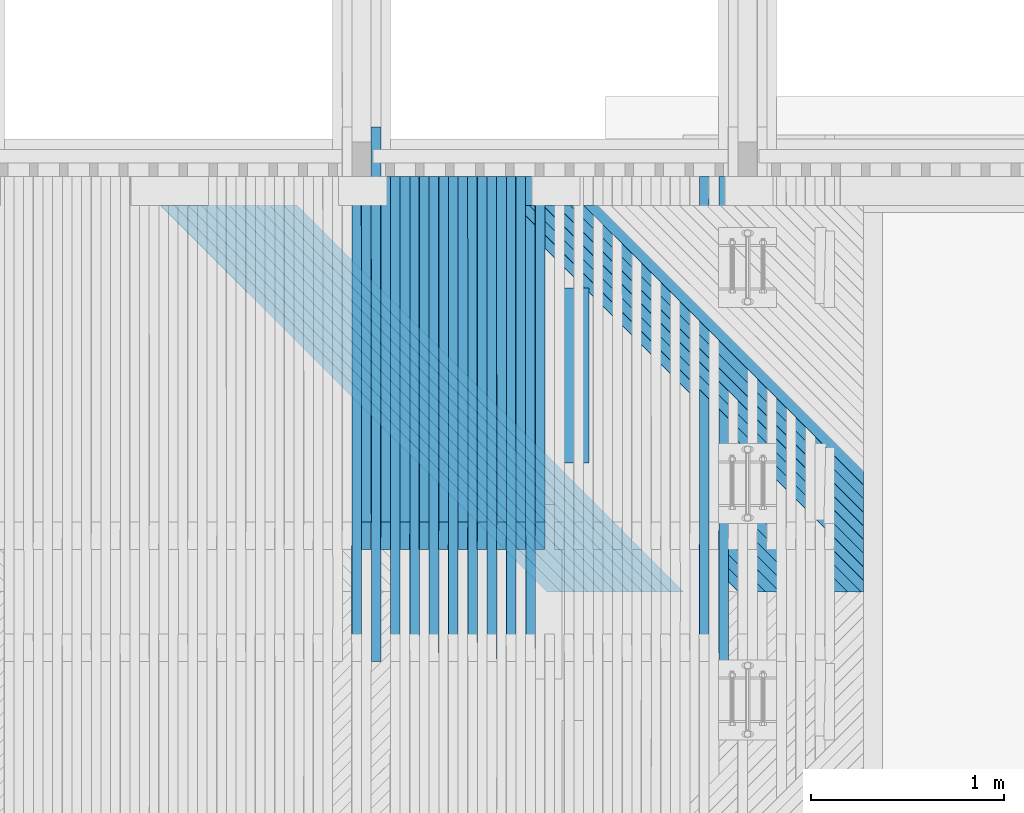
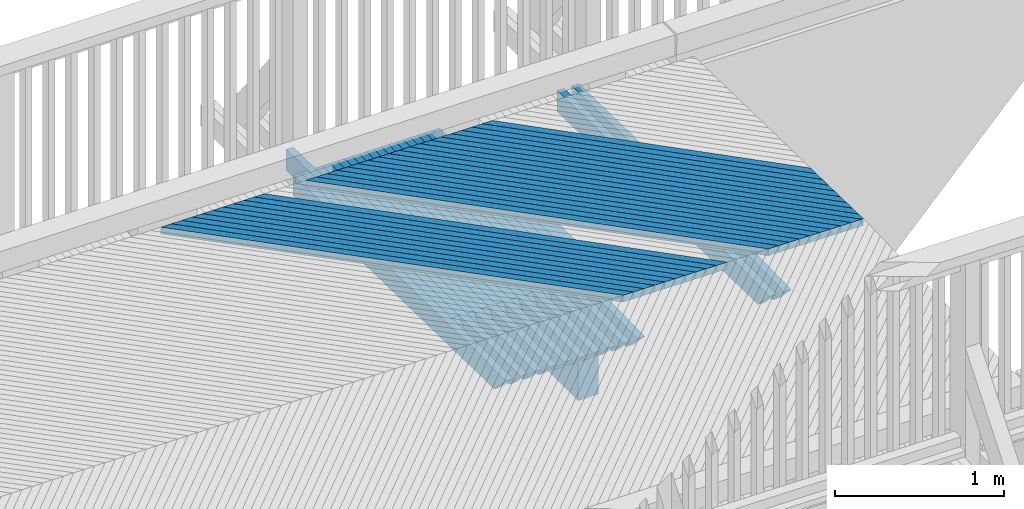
# One storey, part 44 of 53: 51 beams.
"""IFC2X3 building model written with IfcOpenShell, lengths in millimetres."""

from ifc_helpers import new_model, si_unit, frame, origin_with_axes, place, context, subcontext, project, spatial, faceted_brep, material, type_object, element, save


model = new_model("IFC2X3")

# Units and contexts
model_context = context("Model", 3, precision=1e-05, world=origin_with_axes())
body_context = subcontext(model_context, "Body", "Model", "MODEL_VIEW")
ifc_project = project(units=[si_unit("LENGTHUNIT", "METRE", prefix="MILLI"), si_unit("AREAUNIT", "SQUARE_METRE"), si_unit("VOLUMEUNIT", "CUBIC_METRE"), si_unit("MASSUNIT", "GRAM", prefix="KILO"), si_unit("TIMEUNIT", "SECOND"), si_unit("PLANEANGLEUNIT", "RADIAN"), si_unit("SOLIDANGLEUNIT", "STERADIAN"), si_unit("THERMODYNAMICTEMPERATUREUNIT", "DEGREE_CELSIUS"), si_unit("LUMINOUSINTENSITYUNIT", "LUMEN")], contexts=[model_context])

# Site, building, storey
site_placement = place(None, origin_with_axes())
site = spatial("IfcSite", under=ifc_project, at=site_placement, Name="Undefined", CompositionType="ELEMENT")
building_placement = place(site_placement, origin_with_axes())
building = spatial("IfcBuilding", under=site, at=building_placement, Name="Undefined", CompositionType="ELEMENT")
storey_placement = place(building_placement, origin_with_axes())
storey = spatial("IfcBuildingStorey", under=building, at=storey_placement, Name="Undefined", CompositionType="ELEMENT", Elevation=0.0)

# Beams
ifc_material = material(Name="TIMBER/Timber_Undefined")
beam_type_1 = type_object("IfcBeamType", Name="945*140", PredefinedType="NOTDEFINED")
beam_1_placement = place(storey_placement, frame((15109.0, 43937.5, 2500.4679002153), z_axis=(0.0, 0.0, 1.0), x_axis=(0.0, -1.0, 0.0)))
element("IfcBeam", 1, at=beam_1_placement, inside=storey, type_object=beam_type_1, material=ifc_material, Name="PALKKI", ObjectType="945*140", context=body_context, shape_type="Brep", body=[
    faceted_brep([(0.0, 70.0, -472.5), (0.0, 70.0, 472.5), (905.0, 70.0, 472.5), (905.0, 70.0, -472.5), (0.0, -70.0, 472.5), (905.0, -70.0, 472.5), (0.0, -70.0, -472.5), (905.0, -70.0, -472.5)], [[[0, 1, 2, 3]], [[1, 4, 5, 2]], [[4, 6, 7, 5]], [[6, 0, 3, 7]], [[5, 7, 3, 2]], [[6, 4, 1, 0]]]),
])
beam_type_2 = type_object("IfcBeamType", Name="50*50", PredefinedType="NOTDEFINED")
beam_2_placement = place(storey_placement, frame((17188.1518059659, 42365.4998996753, 3166.01273338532), z_axis=(0.706835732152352, 0.706981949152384, -0.0236594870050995), x_axis=(-0.707249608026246, 0.706948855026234, -0.00461609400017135)))
element("IfcBeam", 2, at=beam_2_placement, inside=storey, type_object=beam_type_2, material=ifc_material, Name="BEAM", ObjectType="50*50", context=body_context, shape_type="Brep", body=[
    faceted_brep([(2804.3406783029, -25.0, 24.9999999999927), (2854.34301907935, -25.0, -25.0), (2852.92877373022, 25.0, -25.0000000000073), (2802.92643296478, 25.0, 25.0), (857.065534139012, 24.9999999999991, 25.0000000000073), (856.113780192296, -25.0, 25.0), (806.143039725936, -24.9999999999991, -25.0), (807.094793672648, 24.9999999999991, -25.0)], [[[0, 1, 2, 3]], [[0, 3, 4, 5]], [[1, 0, 5, 6]], [[2, 1, 6, 7]], [[3, 2, 7, 4]], [[6, 5, 4, 7]]]),
])
beam_3_placement = place(storey_placement, frame((17117.4357443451, 42365.4998996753, 3167.08782657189), z_axis=(0.706838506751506, 0.706981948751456, -0.0235764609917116), x_axis=(-0.707249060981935, 0.706948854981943, -0.00469916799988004)))
element("IfcBeam", 3, at=beam_3_placement, inside=storey, type_object=beam_type_2, material=ifc_material, Name="BEAM", ObjectType="50*50", context=body_context, shape_type="Brep", body=[
    faceted_brep([(2804.3406783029, -25.0, 24.9999999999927), (2854.34301907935, -25.0, -25.0), (2852.92877373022, 25.0, -25.0000000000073), (2802.92643296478, 25.0, 25.0), (757.074649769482, 25.0000000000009, 25.0), (756.131196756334, -25.0, 25.0), (706.160221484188, -24.9999999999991, -25.0000000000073), (707.103674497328, 25.0, -25.0000000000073)], [[[0, 1, 2, 3]], [[0, 3, 4, 5]], [[1, 0, 5, 6]], [[2, 1, 6, 7]], [[3, 2, 7, 4]], [[6, 5, 4, 7]]]),
])
beam_4_placement = place(storey_placement, frame((17046.7195569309, 42365.4998996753, 3168.15461339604), z_axis=(0.706841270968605, 0.706981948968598, -0.0234934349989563), x_axis=(-0.707248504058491, 0.706948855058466, -0.00478224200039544)))
element("IfcBeam", 4, at=beam_4_placement, inside=storey, type_object=beam_type_2, material=ifc_material, Name="BEAM", ObjectType="50*50", context=body_context, shape_type="Brep", body=[
    faceted_brep([(2804.3406783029, -25.0, 24.9999999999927), (2854.34301907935, -25.0, -25.0), (2852.92877373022, 25.0, -25.0000000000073), (2802.92643296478, 25.0, 25.0), (657.083441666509, 25.0000000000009, 25.0), (656.148289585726, -24.9999999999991, 25.0000000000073), (606.177079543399, -24.9999999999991, -24.9999999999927), (607.112231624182, 25.0000000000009, -25.0)], [[[0, 1, 2, 3]], [[0, 3, 4, 5]], [[1, 0, 5, 6]], [[2, 1, 6, 7]], [[3, 2, 7, 4]], [[6, 5, 4, 7]]]),
])
beam_5_placement = place(storey_placement, frame((16976.0032446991, 42365.4998996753, 3169.21309384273), z_axis=(0.70684402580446, 0.706981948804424, -0.0234104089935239), x_axis=(-0.707247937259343, 0.706948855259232, -0.00486531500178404)))
element("IfcBeam", 5, at=beam_5_placement, inside=storey, type_object=beam_type_2, material=ifc_material, Name="BEAM", ObjectType="50*50", context=body_context, shape_type="Brep", body=[
    faceted_brep([(2804.3406783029, -25.0, 24.9999999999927), (2854.34301907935, -25.0, -25.0), (2852.92877373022, 25.0, -25.0000000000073), (2802.92643296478, 25.0, 25.0), (557.091907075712, 25.0000000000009, 25.0), (556.165055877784, -24.9999999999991, 25.0), (506.193611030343, -24.9999999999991, -25.0), (507.120462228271, 25.0000000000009, -24.9999999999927)], [[[0, 1, 2, 3]], [[0, 3, 4, 5]], [[1, 0, 5, 6]], [[2, 1, 6, 7]], [[3, 2, 7, 4]], [[6, 5, 4, 7]]]),
])
beam_6_placement = place(storey_placement, frame((16905.2868086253, 42365.4998996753, 3170.26326789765), z_axis=(0.706846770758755, 0.70698194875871, -0.0233273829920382), x_axis=(-0.707247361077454, 0.706948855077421, -0.00494838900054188)))
element("IfcBeam", 6, at=beam_6_placement, inside=storey, type_object=beam_type_2, material=ifc_material, Name="BEAM", ObjectType="50*50", context=body_context, shape_type="Brep", body=[
    faceted_brep([(2804.3406783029, -25.0, 24.9999999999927), (2854.34301907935, -25.0, -25.0), (2852.92877373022, 25.0, -25.0000000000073), (2802.92643296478, 25.0, 25.0), (457.100042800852, 25.0000000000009, 25.0000000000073), (456.181492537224, -25.0, 25.0000000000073), (406.209812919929, -24.9999999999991, -24.9999999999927), (407.128363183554, 25.0000000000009, -25.0)], [[[0, 1, 2, 3]], [[0, 3, 4, 5]], [[1, 0, 5, 6]], [[2, 1, 6, 7]], [[3, 2, 7, 4]], [[6, 5, 4, 7]]]),
])
beam_7_placement = place(storey_placement, frame((16834.5702496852, 42365.4998996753, 3171.30513554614), z_axis=(0.706849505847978, 0.706981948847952, -0.023244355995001), x_axis=(-0.707246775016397, 0.70694885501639, -0.0050314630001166)))
element("IfcBeam", 7, at=beam_7_placement, inside=storey, type_object=beam_type_2, material=ifc_material, Name="BEAM", ObjectType="50*50", context=body_context, shape_type="Brep", body=[
    faceted_brep([(2804.3406783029, -25.0, 24.9999999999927), (2854.34301907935, -25.0, -25.0), (2852.92877373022, 25.0, -25.0000000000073), (2802.92643296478, 25.0, 25.0), (357.107846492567, 24.9999999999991, 24.9999999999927), (356.19759721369, -25.0000000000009, 24.9999999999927), (306.225682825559, -25.0000000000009, -25.0000000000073), (307.135932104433, 24.9999999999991, -25.0000000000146)], [[[0, 1, 2, 3]], [[0, 3, 4, 5]], [[1, 0, 5, 6]], [[2, 1, 6, 7]], [[3, 2, 7, 4]], [[6, 5, 4, 7]]]),
])
beam_8_placement = place(storey_placement, frame((16763.8535688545, 42365.4998996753, 3172.33869677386), z_axis=(0.706852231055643, 0.706981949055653, -0.0231613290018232), x_axis=(-0.707246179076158, 0.706948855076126, -0.0051145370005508)))
element("IfcBeam", 8, at=beam_8_placement, inside=storey, type_object=beam_type_2, material=ifc_material, Name="BEAM", ObjectType="50*50", context=body_context, shape_type="Brep", body=[
    faceted_brep([(2804.3406783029, -25.0, 24.9999999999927), (2854.34301907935, -25.0, -25.0), (2852.92877373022, 25.0, -25.0000000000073), (2802.92643296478, 25.0, 25.0), (257.115315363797, 25.0, 25.0000000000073), (256.21336707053, -25.0000000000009, 25.0000000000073), (206.241217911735, -25.0, -24.9999999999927), (207.143166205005, 25.0, -24.9999999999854)], [[[0, 1, 2, 3]], [[0, 3, 4, 5]], [[1, 0, 5, 6]], [[2, 1, 6, 7]], [[3, 2, 7, 4]], [[6, 5, 4, 7]]]),
])
beam_9_placement = place(storey_placement, frame((16693.1367671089, 42365.4998996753, 3173.36395156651), z_axis=(0.706854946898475, 0.706981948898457, -0.0230783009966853), x_axis=(-0.707245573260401, 0.70694885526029, -0.00519761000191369)))
element("IfcBeam", 9, at=beam_9_placement, inside=storey, type_object=beam_type_2, material=ifc_material, Name="BEAM", ObjectType="50*50", context=body_context, shape_type="Brep", body=[
    faceted_brep([(2804.3406783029, -25.0, 24.9999999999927), (2854.34301907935, -25.0, -25.0), (2852.92877373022, 25.0, -25.0000000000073), (2802.92643296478, 25.0, 25.0), (157.122446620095, 25.0, 25.0), (156.228799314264, -25.0, 25.0000000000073), (106.256415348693, -25.0, -24.9999999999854), (107.150062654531, 25.0, -24.9999999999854)], [[[0, 1, 2, 3]], [[0, 3, 4, 5]], [[1, 0, 5, 6]], [[2, 1, 6, 7]], [[3, 2, 7, 4]], [[6, 5, 4, 7]]]),
])
beam_10_placement = place(storey_placement, frame((16622.419845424, 42365.4998996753, 3174.38089991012), z_axis=(0.70685765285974, 0.706981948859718, -0.0229952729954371), x_axis=(-0.707244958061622, 0.706948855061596, -0.00528068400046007)))
element("IfcBeam", 10, at=beam_10_placement, inside=storey, type_object=beam_type_2, material=ifc_material, Name="BEAM", ObjectType="50*50", context=body_context, shape_type="Brep", body=[
    faceted_brep([(25.0011701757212, -24.9999999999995, -24.9999999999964), (23.5869248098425, 25.0000000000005, -24.9999999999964), (2852.92877373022, 25.0, -25.0000000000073), (2854.34301907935, -25.0, -25.0), (2804.3406783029, -25.0, 24.9999999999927), (2802.92643296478, 25.0, 25.0), (57.1292373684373, 25.0, 25.0), (56.2438911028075, -25.0, 25.0), (15.6334371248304, -25.0, -15.6327054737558), (15.3693294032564, 25.0, -16.7827892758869)], [[[0, 1, 2, 3]], [[4, 3, 2, 5]], [[4, 5, 6, 7]], [[0, 3, 4, 7, 8]], [[1, 0, 8, 9]], [[5, 2, 1, 9, 6]], [[8, 7, 6, 9]]]),
])
for number, where, z_axis, x_axis, name in (
    (11, (16551.7028047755, 42365.4998996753, 3175.38954179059), (0.706860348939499, 0.70698194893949, -0.0229122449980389), (-0.707244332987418, 0.706948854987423, -0.00536375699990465), "BEAM"),
    (12, (16480.9856461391, 42365.4998996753, 3176.38987719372), (0.706863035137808, 0.706981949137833, -0.0228292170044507), (-0.707243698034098, 0.706948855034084, -0.00544683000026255), "BEAM"),
    (13, (16410.2683704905, 42365.4998996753, 3177.38190610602), (0.706865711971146, 0.706981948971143, -0.0227461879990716), (-0.707243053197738, 0.706948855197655, -0.00552990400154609), "BEAM"),
    (14, (16339.5509788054, 42365.4998996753, 3178.36562851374), (0.706868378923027, 0.706981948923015, -0.0226631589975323), (-0.707242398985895, 0.7069488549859, -0.00561297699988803), "BEAM"),
    (15, (16268.8334720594, 42365.4998996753, 3179.34104440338), (0.706871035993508, 0.706981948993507, -0.0225801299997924), (-0.707241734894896, 0.706948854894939, -0.00569604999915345), "BEAM"),
    (16, (16198.1158512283, 42365.4998996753, 3180.30815376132), (0.706873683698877, 0.706981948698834, -0.0224970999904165), (-0.707241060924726, 0.706948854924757, -0.00577912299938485), "BEAM"),
    (17, (16127.3981172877, 42365.4998996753, 3181.26695657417), (0.706876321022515, 0.706981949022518, -0.0224140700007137), (-0.707240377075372, 0.706948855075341, -0.00586219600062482), "BEAM"),
    (18, (16056.6802712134, 42365.4998996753, 3182.21745282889), (0.706878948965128, 0.706981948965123, -0.0223310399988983), (-0.707239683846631, 0.706948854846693, -0.00594526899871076), "BEAM"),
    (19, (15985.962313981, 42365.4998996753, 3183.15964251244), (0.706881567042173, 0.706981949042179, -0.0222480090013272), (-0.707238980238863, 0.706948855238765, -0.00602834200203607), "BEAM"),
    (20, (15632.3708945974, 42365.4998996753, 3187.74599190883), (0.706894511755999, 0.706981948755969, -0.021832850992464), (-0.707235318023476, 0.706948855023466, -0.00644370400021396), "BEAM"),
    (21, (15561.6522909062, 42365.4998996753, 3188.6383418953), (0.706897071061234, 0.706981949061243, -0.0217498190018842), (-0.707234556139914, 0.706948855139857, -0.00652677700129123), "BEAM"),
    (22, (15490.9335828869, 42365.4998996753, 3189.52238522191), (0.706899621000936, 0.706981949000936, -0.0216667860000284), (-0.707233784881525, 0.706948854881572, -0.00660984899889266), "BEAM"),
    (23, (15420.2147715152, 42365.4998996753, 3190.39812187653), (0.706902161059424, 0.706981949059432, -0.0215837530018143), (-0.707233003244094, 0.706948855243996, -0.00669292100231), "BEAM"),
    (24, (15349.4958577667, 42365.4998996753, 3191.26555184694), (0.706904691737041, 0.706981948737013, -0.021500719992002), (-0.707232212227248, 0.706948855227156, -0.00677599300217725), "BEAM"),
    (25, (15278.7768426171, 42365.4998996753, 3192.12467512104), (0.706907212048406, 0.706981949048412, -0.0214176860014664), (-0.707231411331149, 0.706948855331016, -0.00685906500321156), "BEAM"),
    (26, (15208.0577270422, 42365.4998996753, 3192.97549168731), (0.706909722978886, 0.706981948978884, -0.0213346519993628), (-0.707230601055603, 0.70694885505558, -0.00694213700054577), "BEAM"),
    (27, (15137.3385120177, 42365.4998996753, 3193.81800153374), (0.706912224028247, 0.706981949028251, -0.021251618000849), (-0.70722978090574, 0.706948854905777, -0.00702520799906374), "BEAM"),
    (28, (15066.6191985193, 42365.4998996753, 3194.65220464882), (0.706914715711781, 0.706981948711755, -0.0211685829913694), (-0.707228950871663, 0.706948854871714, -0.00710827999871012), "BEAM"),
    (29, (14995.8997875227, 42365.4998996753, 3195.47810102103), (0.706917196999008, 0.706981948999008, -0.0210855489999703), (-0.707228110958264, 0.70694885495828, -0.00719135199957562), "BEAM"),
):
    element("IfcBeam", number, at=place(storey_placement, frame(where, z_axis=z_axis, x_axis=x_axis)), inside=storey, type_object=beam_type_2, material=ifc_material, Name=name, ObjectType="50*50", context=body_context, shape_type="Brep", body=[
        faceted_brep([(23.5869248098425, 25.0000000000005, -24.9999999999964), (-26.415415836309, 25.0000000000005, 25.0000000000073), (2802.92643296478, 25.0, 25.0), (2852.92877373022, 25.0, -25.0000000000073), (-25.001170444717, -24.9999999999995, 25.0000000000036), (2804.3406783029, -25.0, 24.9999999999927), (25.0011701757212, -24.9999999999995, -24.9999999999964), (2854.34301907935, -25.0, -25.0)], [[[0, 1, 2, 3]], [[1, 4, 5, 2]], [[4, 6, 7, 5]], [[6, 0, 3, 7]], [[5, 7, 3, 2]], [[6, 4, 1, 0]]]),
    ])
beam_type_3 = type_object("IfcBeamType", Name="150*50", PredefinedType="NOTDEFINED")
for number, where, z_axis, x_axis, name in (
    (30, (15874.7290061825, 44513.4953923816, 3041.62863633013), (0.0130016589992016, 0.0199960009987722, 0.999715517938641), (0.000260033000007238, -0.999800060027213, 0.0199943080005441), "BEAM"),
    (31, (15774.717424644, 44513.4953923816, 3042.92875591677), (0.0128355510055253, 0.019996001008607, 0.999717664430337), (0.000256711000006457, -0.999800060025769, 0.0199943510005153), "BEAM"),
    (32, (14874.6038632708, 44513.4953923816, 3053.88204159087), (0.0113405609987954, 0.0199960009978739, 0.999735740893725), (0.000226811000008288, -0.999800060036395, 0.0199947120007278), "BEAM"),
):
    element("IfcBeam", number, at=place(storey_placement, frame(where, z_axis=z_axis, x_axis=x_axis)), inside=storey, type_object=beam_type_3, material=ifc_material, Name=name, ObjectType="150*50", context=body_context, shape_type="Brep", body=[
        faceted_brep([(1.28420651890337e-08, -24.9999999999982, -74.9999999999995), (1.28420651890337e-08, 25.0000000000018, -75.0), (2375.00494422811, 25.0000000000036, -75.0), (2375.0049444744, -24.9999999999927, -74.9999999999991), (-1.28347892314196e-08, -24.9999999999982, 75.0), (-1.28347892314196e-08, 25.0, 75.0), (2150.42515052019, 25.0000000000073, 75.0), (2510.59248715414, 25.0000000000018, 60.5875433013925), (2510.5924871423, -24.9999999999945, 60.5875430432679), (2150.42514405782, -24.9999999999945, 75.0)], [[[0, 1, 2, 3]], [[0, 4, 5, 1]], [[2, 1, 5, 6, 7]], [[3, 2, 7, 8]], [[4, 0, 3, 8, 9]], [[5, 4, 9, 6]], [[8, 7, 6, 9]]]),
    ])
beam_11_placement = place(storey_placement, frame((14924.6205833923, 44513.4953923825, 3053.30636416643), z_axis=(0.0115066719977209, 0.0199960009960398, 0.999733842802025), x_axis=(0.00023013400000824, -0.999800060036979, 0.0199946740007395)))
element("IfcBeam", 33, at=beam_11_placement, inside=storey, type_object=beam_type_3, material=ifc_material, Name="BEAM", ObjectType="150*50", context=body_context, shape_type="Brep", body=[
    faceted_brep([(1.28420651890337e-08, -24.9999999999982, -74.9999999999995), (-1.28347892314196e-08, -24.9999999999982, 75.0), (-1.28347892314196e-08, 25.0, 75.0), (1.28420651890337e-08, 25.0000000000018, -75.0), (1789.96936408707, 24.9999999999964, 75.0000000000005), (1928.42646328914, 24.9999999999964, -74.9999999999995), (1928.42646353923, -25.0000000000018, -75.0), (1789.96936433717, -25.0000000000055, 74.9999999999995)], [[[0, 1, 2, 3]], [[3, 2, 4, 5]], [[0, 3, 5, 6]], [[1, 0, 6, 7]], [[2, 1, 7, 4]], [[5, 4, 7, 6]]]),
])
beam_12_placement = place(storey_placement, frame((14774.590259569, 44513.4953923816, 3055.01598487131), z_axis=(0.0111744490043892, 0.0199960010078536, 0.99973761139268), x_axis=(0.000223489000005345, -0.999800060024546, 0.0199947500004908)))
element("IfcBeam", 34, at=beam_12_placement, inside=storey, type_object=beam_type_3, material=ifc_material, Name="BEAM", ObjectType="150*50", context=body_context, shape_type="Brep", body=[
    faceted_brep([(1.28420651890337e-08, -24.9999999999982, -74.9999999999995), (1.28420651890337e-08, 25.0000000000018, -75.0), (2375.00494422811, 25.0000000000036, -75.0), (2375.0049444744, -24.9999999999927, -74.9999999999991), (-1.28347892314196e-08, -24.9999999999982, 75.0), (-1.28347892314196e-08, 25.0, 75.0), (2150.42515052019, 25.0000000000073, 75.0), (2510.59248715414, 25.0000000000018, 60.5875433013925), (2510.5924871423, -24.9999999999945, 60.5875430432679), (2150.42514405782, -24.9999999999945, 75.0)], [[[0, 1, 2, 3]], [[0, 4, 5, 1]], [[2, 1, 5, 6, 7]], [[3, 2, 7, 8]], [[4, 0, 3, 8, 9]], [[5, 4, 9, 6]], [[8, 7, 6, 9]]]),
])
beam_13_placement = place(storey_placement, frame((14824.6070746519, 44513.4953923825, 3054.44861800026), z_axis=(0.0113405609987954, 0.0199960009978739, 0.999735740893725), x_axis=(0.000226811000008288, -0.999800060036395, 0.0199947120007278)))
element("IfcBeam", 35, at=beam_13_placement, inside=storey, type_object=beam_type_3, material=ifc_material, Name="BEAM", ObjectType="150*50", context=body_context, shape_type="Brep", body=[
    faceted_brep([(1.28420651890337e-08, -24.9999999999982, -74.9999999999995), (-1.28347892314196e-08, -24.9999999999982, 75.0), (-1.28347892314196e-08, 25.0, 75.0), (1.28420651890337e-08, 25.0000000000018, -75.0), (1789.96936408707, 24.9999999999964, 75.0000000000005), (1928.42646328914, 24.9999999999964, -74.9999999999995), (1928.42646353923, -25.0000000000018, -75.0), (1789.96936433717, -25.0000000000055, 74.9999999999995)], [[[0, 1, 2, 3]], [[3, 2, 4, 5]], [[0, 3, 5, 6]], [[1, 0, 6, 7]], [[2, 1, 7, 4]], [[5, 4, 7, 6]]]),
])
beam_14_placement = place(storey_placement, frame((14674.576468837, 44513.4953923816, 3056.13331034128), z_axis=(0.0110083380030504, 0.0199960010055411, 0.999739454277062), x_axis=(0.000220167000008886, -0.999800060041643, 0.0199947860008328)))
element("IfcBeam", 36, at=beam_14_placement, inside=storey, type_object=beam_type_3, material=ifc_material, Name="BEAM", ObjectType="150*50", context=body_context, shape_type="Brep", body=[
    faceted_brep([(1.28420651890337e-08, -24.9999999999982, -74.9999999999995), (1.28420651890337e-08, 25.0000000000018, -75.0), (2375.00494422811, 25.0000000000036, -75.0), (2375.0049444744, -24.9999999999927, -74.9999999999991), (-1.28347892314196e-08, -24.9999999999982, 75.0), (-1.28347892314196e-08, 25.0, 75.0), (2150.42515052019, 25.0000000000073, 75.0), (2510.59248715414, 25.0000000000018, 60.5875433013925), (2510.5924871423, -24.9999999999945, 60.5875430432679), (2150.42514405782, -24.9999999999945, 75.0)], [[[0, 1, 2, 3]], [[0, 4, 5, 1]], [[2, 1, 5, 6, 7]], [[3, 2, 7, 8]], [[4, 0, 3, 8, 9]], [[5, 4, 9, 6]], [[8, 7, 6, 9]]]),
])
beam_15_placement = place(storey_placement, frame((14724.5933775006, 44513.4953923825, 3055.57425403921), z_axis=(0.0111744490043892, 0.0199960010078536, 0.99973761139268), x_axis=(0.000223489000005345, -0.999800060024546, 0.0199947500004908)))
element("IfcBeam", 37, at=beam_15_placement, inside=storey, type_object=beam_type_3, material=ifc_material, Name="BEAM", ObjectType="150*50", context=body_context, shape_type="Brep", body=[
    faceted_brep([(1.28420651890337e-08, -24.9999999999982, -74.9999999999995), (-1.28347892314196e-08, -24.9999999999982, 75.0), (-1.28347892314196e-08, 25.0, 75.0), (1.28420651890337e-08, 25.0000000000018, -75.0), (1789.96936408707, 24.9999999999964, 75.0000000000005), (1928.42646328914, 24.9999999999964, -74.9999999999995), (1928.42646353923, -25.0000000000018, -75.0), (1789.96936433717, -25.0000000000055, 74.9999999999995)], [[[0, 1, 2, 3]], [[3, 2, 4, 5]], [[0, 3, 5, 6]], [[1, 0, 6, 7]], [[2, 1, 7, 4]], [[5, 4, 7, 6]]]),
])
beam_16_placement = place(storey_placement, frame((14574.562493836, 44513.4953923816, 3057.23401797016), z_axis=(0.0108422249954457, 0.0199960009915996, 0.999741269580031), x_axis=(0.000216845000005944, -0.999800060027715, 0.0199948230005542)))
element("IfcBeam", 38, at=beam_16_placement, inside=storey, type_object=beam_type_3, material=ifc_material, Name="BEAM", ObjectType="150*50", context=body_context, shape_type="Brep", body=[
    faceted_brep([(1.28420651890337e-08, -24.9999999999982, -74.9999999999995), (1.28420651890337e-08, 25.0000000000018, -75.0), (2375.00494422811, 25.0000000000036, -75.0), (2375.0049444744, -24.9999999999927, -74.9999999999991), (-1.28347892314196e-08, -24.9999999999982, 75.0), (-1.28347892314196e-08, 25.0, 75.0), (2150.42515052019, 25.0000000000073, 75.0), (2510.59248715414, 25.0000000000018, 60.5875433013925), (2510.5924871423, -24.9999999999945, 60.5875430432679), (2150.42514405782, -24.9999999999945, 75.0)], [[[0, 1, 2, 3]], [[0, 4, 5, 1]], [[2, 1, 5, 6, 7]], [[3, 2, 7, 8]], [[4, 0, 3, 8, 9]], [[5, 4, 9, 6]], [[8, 7, 6, 9]]]),
])
beam_17_placement = place(storey_placement, frame((14624.5794946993, 44513.4953923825, 3056.68327225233), z_axis=(0.0110083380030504, 0.0199960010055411, 0.999739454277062), x_axis=(0.000220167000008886, -0.999800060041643, 0.0199947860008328)))
element("IfcBeam", 39, at=beam_17_placement, inside=storey, type_object=beam_type_3, material=ifc_material, Name="BEAM", ObjectType="150*50", context=body_context, shape_type="Brep", body=[
    faceted_brep([(1.28420651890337e-08, -24.9999999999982, -74.9999999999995), (-1.28347892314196e-08, -24.9999999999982, 75.0), (-1.28347892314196e-08, 25.0, 75.0), (1.28420651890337e-08, 25.0000000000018, -75.0), (1789.96936408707, 24.9999999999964, 75.0000000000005), (1928.42646328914, 24.9999999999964, -74.9999999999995), (1928.42646353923, -25.0000000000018, -75.0), (1789.96936433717, -25.0000000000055, 74.9999999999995)], [[[0, 1, 2, 3]], [[3, 2, 4, 5]], [[0, 3, 5, 6]], [[1, 0, 6, 7]], [[2, 1, 7, 4]], [[5, 4, 7, 6]]]),
])
beam_18_placement = place(storey_placement, frame((14474.5483373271, 44513.4953923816, 3058.31810772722), z_axis=(0.0106761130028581, 0.0199960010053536, 0.999743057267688), x_axis=(0.000213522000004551, -0.999800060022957, 0.0199948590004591)))
element("IfcBeam", 40, at=beam_18_placement, inside=storey, type_object=beam_type_3, material=ifc_material, Name="BEAM", ObjectType="150*50", context=body_context, shape_type="Brep", body=[
    faceted_brep([(1.28420651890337e-08, -24.9999999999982, -74.9999999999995), (1.28420651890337e-08, 25.0000000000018, -75.0), (2375.00494422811, 25.0000000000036, -75.0), (2375.0049444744, -24.9999999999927, -74.9999999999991), (-1.28347892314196e-08, -24.9999999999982, 75.0), (-1.28347892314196e-08, 25.0, 75.0), (2150.42515052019, 25.0000000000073, 75.0), (2510.59248715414, 25.0000000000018, 60.5875433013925), (2510.5924871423, -24.9999999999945, 60.5875430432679), (2150.42514405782, -24.9999999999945, 75.0)], [[[0, 1, 2, 3]], [[0, 4, 5, 1]], [[2, 1, 5, 6, 7]], [[3, 2, 7, 8]], [[4, 0, 3, 8, 9]], [[5, 4, 9, 6]], [[8, 7, 6, 9]]]),
])
beam_19_placement = place(storey_placement, frame((14524.5654290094, 44513.4953923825, 3057.77567260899), z_axis=(0.0108422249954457, 0.0199960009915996, 0.999741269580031), x_axis=(0.000216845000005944, -0.999800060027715, 0.0199948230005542)))
element("IfcBeam", 41, at=beam_19_placement, inside=storey, type_object=beam_type_3, material=ifc_material, Name="BEAM", ObjectType="150*50", context=body_context, shape_type="Brep", body=[
    faceted_brep([(1.28420651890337e-08, -24.9999999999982, -74.9999999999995), (-1.28347892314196e-08, -24.9999999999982, 75.0), (-1.28347892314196e-08, 25.0, 75.0), (1.28420651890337e-08, 25.0000000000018, -75.0), (1789.96936408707, 24.9999999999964, 75.0000000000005), (1928.42646328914, 24.9999999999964, -74.9999999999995), (1928.42646353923, -25.0000000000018, -75.0), (1789.96936433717, -25.0000000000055, 74.9999999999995)], [[[0, 1, 2, 3]], [[3, 2, 4, 5]], [[0, 3, 5, 6]], [[1, 0, 6, 7]], [[2, 1, 7, 4]], [[5, 4, 7, 6]]]),
])
beam_20_placement = place(storey_placement, frame((14374.5340020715, 44513.4953923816, 3059.38557958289), z_axis=(0.0105100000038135, 0.0199960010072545, 0.99974481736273), x_axis=(0.000210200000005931, -0.999800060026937, 0.0199948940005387)))
element("IfcBeam", 42, at=beam_20_placement, inside=storey, type_object=beam_type_3, material=ifc_material, Name="BEAM", ObjectType="150*50", context=body_context, shape_type="Brep", body=[
    faceted_brep([(1.28420651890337e-08, -24.9999999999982, -74.9999999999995), (1.28420651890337e-08, 25.0000000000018, -75.0), (2375.00494422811, 25.0000000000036, -75.0), (2375.0049444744, -24.9999999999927, -74.9999999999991), (-1.28347892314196e-08, -24.9999999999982, 75.0), (-1.28347892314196e-08, 25.0, 75.0), (2150.42515052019, 25.0000000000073, 75.0), (2510.59248715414, 25.0000000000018, 60.5875433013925), (2510.5924871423, -24.9999999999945, 60.5875430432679), (2150.42514405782, -24.9999999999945, 75.0)], [[[0, 1, 2, 3]], [[0, 4, 5, 1]], [[2, 1, 5, 6, 7]], [[3, 2, 7, 8]], [[4, 0, 3, 8, 9]], [[5, 4, 9, 6]], [[8, 7, 6, 9]]]),
])
beam_21_placement = place(storey_placement, frame((14424.5511831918, 44513.4953923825, 3058.85145507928), z_axis=(0.0106761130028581, 0.0199960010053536, 0.999743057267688), x_axis=(0.000213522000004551, -0.999800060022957, 0.0199948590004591)))
element("IfcBeam", 43, at=beam_21_placement, inside=storey, type_object=beam_type_3, material=ifc_material, Name="BEAM", ObjectType="150*50", context=body_context, shape_type="Brep", body=[
    faceted_brep([(1.28420651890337e-08, -24.9999999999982, -74.9999999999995), (-1.28347892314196e-08, -24.9999999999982, 75.0), (-1.28347892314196e-08, 25.0, 75.0), (1.28420651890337e-08, 25.0000000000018, -75.0), (1789.96936408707, 24.9999999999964, 75.0000000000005), (1928.42646328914, 24.9999999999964, -74.9999999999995), (1928.42646353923, -25.0000000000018, -75.0), (1789.96936433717, -25.0000000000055, 74.9999999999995)], [[[0, 1, 2, 3]], [[3, 2, 4, 5]], [[0, 3, 5, 6]], [[1, 0, 6, 7]], [[2, 1, 7, 4]], [[5, 4, 7, 6]]]),
])
beam_22_placement = place(storey_placement, frame((14274.5194908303, 44513.4953923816, 3060.43643350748), z_axis=(0.010343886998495, 0.0199960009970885, 0.999746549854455), x_axis=(0.000206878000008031, -0.999800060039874, 0.0199949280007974)))
element("IfcBeam", 44, at=beam_22_placement, inside=storey, type_object=beam_type_3, material=ifc_material, Name="BEAM", ObjectType="150*50", context=body_context, shape_type="Brep", body=[
    faceted_brep([(1.28420651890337e-08, -24.9999999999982, -74.9999999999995), (1.28420651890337e-08, 25.0000000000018, -75.0), (2375.00494422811, 25.0000000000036, -75.0), (2375.0049444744, -24.9999999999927, -74.9999999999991), (-1.28347892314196e-08, -24.9999999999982, 75.0), (-1.28347892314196e-08, 25.0, 75.0), (2150.42515052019, 25.0000000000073, 75.0), (2510.59248715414, 25.0000000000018, 60.5875433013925), (2510.5924871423, -24.9999999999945, 60.5875430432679), (2150.42514405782, -24.9999999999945, 75.0)], [[[0, 1, 2, 3]], [[0, 4, 5, 1]], [[2, 1, 5, 6, 7]], [[3, 2, 7, 8]], [[4, 0, 3, 8, 9]], [[5, 4, 9, 6]], [[8, 7, 6, 9]]]),
])
beam_23_placement = place(storey_placement, frame((14324.5367600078, 44513.4953923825, 3059.91061963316), z_axis=(0.0105100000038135, 0.0199960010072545, 0.99974481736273), x_axis=(0.000210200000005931, -0.999800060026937, 0.0199948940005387)))
element("IfcBeam", 45, at=beam_23_placement, inside=storey, type_object=beam_type_3, material=ifc_material, Name="BEAM", ObjectType="150*50", context=body_context, shape_type="Brep", body=[
    faceted_brep([(1.28420651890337e-08, -24.9999999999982, -74.9999999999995), (-1.28347892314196e-08, -24.9999999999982, 75.0), (-1.28347892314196e-08, 25.0, 75.0), (1.28420651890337e-08, 25.0000000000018, -75.0), (1789.96936408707, 24.9999999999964, 75.0000000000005), (1928.42646328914, 24.9999999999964, -74.9999999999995), (1928.42646353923, -25.0000000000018, -75.0), (1789.96936433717, -25.0000000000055, 74.9999999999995)], [[[0, 1, 2, 3]], [[3, 2, 4, 5]], [[0, 3, 5, 6]], [[1, 0, 6, 7]], [[2, 1, 7, 4]], [[5, 4, 7, 6]]]),
])
beam_24_placement = place(storey_placement, frame((14174.5048063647, 44513.4953923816, 3061.47066947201), z_axis=(0.0101777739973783, 0.0199960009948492, 0.999748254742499), x_axis=(0.00020355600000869, -0.999800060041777, 0.0199949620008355)))
element("IfcBeam", 46, at=beam_24_placement, inside=storey, type_object=beam_type_3, material=ifc_material, Name="BEAM", ObjectType="150*50", context=body_context, shape_type="Brep", body=[
    faceted_brep([(1.28420651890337e-08, -24.9999999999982, -74.9999999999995), (1.28420651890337e-08, 25.0000000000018, -75.0), (2375.00494422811, 25.0000000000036, -75.0), (2375.0049444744, -24.9999999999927, -74.9999999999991), (-1.28347892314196e-08, -24.9999999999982, 75.0), (-1.28347892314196e-08, 25.0, 75.0), (2150.42515052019, 25.0000000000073, 75.0), (2510.59248715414, 25.0000000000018, 60.5875433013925), (2510.5924871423, -24.9999999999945, 60.5875430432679), (2150.42514405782, -24.9999999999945, 75.0)], [[[0, 1, 2, 3]], [[0, 4, 5, 1]], [[2, 1, 5, 6, 7]], [[3, 2, 7, 8]], [[4, 0, 3, 8, 9]], [[5, 4, 9, 6]], [[8, 7, 6, 9]]]),
])
for number, where, z_axis, x_axis, name in (
    (47, (14224.5221622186, 44513.4953923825, 3060.95316624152), (0.010343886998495, 0.0199960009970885, 0.999746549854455), (0.000206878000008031, -0.999800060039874, 0.0199949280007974), "BEAM"),
    (48, (14124.5073925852, 44513.4953923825, 3061.97909487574), (0.0101777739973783, 0.0199960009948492, 0.999748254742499), (0.00020355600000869, -0.999800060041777, 0.0199949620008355), "BEAM"),
):
    element("IfcBeam", number, at=place(storey_placement, frame(where, z_axis=z_axis, x_axis=x_axis)), inside=storey, type_object=beam_type_3, material=ifc_material, Name=name, ObjectType="150*50", context=body_context, shape_type="Brep", body=[
        faceted_brep([(1.28420651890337e-08, -24.9999999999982, -74.9999999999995), (-1.28347892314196e-08, -24.9999999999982, 75.0), (-1.28347892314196e-08, 25.0, 75.0), (1.28420651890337e-08, 25.0000000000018, -75.0), (1789.96936408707, 24.9999999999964, 75.0000000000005), (1928.42646328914, 24.9999999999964, -74.9999999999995), (1928.42646353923, -25.0000000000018, -75.0), (1789.96936433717, -25.0000000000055, 74.9999999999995)], [[[0, 1, 2, 3]], [[3, 2, 4, 5]], [[0, 3, 5, 6]], [[1, 0, 6, 7]], [[2, 1, 7, 4]], [[5, 4, 7, 6]]]),
    ])
beam_25_placement = place(storey_placement, frame((13974.4749288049, 44513.4953923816, 3063.48928740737), z_axis=(0.00984554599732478, 0.0199960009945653, 0.999751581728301), x_axis=(0.000196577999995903, -0.999800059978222, 0.0199950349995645)))
element("IfcBeam", 49, at=beam_25_placement, inside=storey, type_object=beam_type_3, material=ifc_material, Name="BEAM", ObjectType="150*50", context=body_context, shape_type="Brep", body=[
    faceted_brep([(1.28420651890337e-08, -24.9999999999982, -74.9999999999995), (1.28420651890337e-08, 25.0000000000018, -75.0), (2375.00494422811, 25.0000000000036, -75.0), (2375.0049444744, -24.9999999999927, -74.9999999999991), (-1.28347892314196e-08, -24.9999999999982, 75.0), (-1.28347892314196e-08, 25.0, 75.0), (2150.42515052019, 25.0000000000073, 75.0), (2510.59248715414, 25.0000000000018, 60.5875433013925), (2510.5924871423, -24.9999999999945, 60.5875430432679), (2150.42514405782, -24.9999999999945, 75.0)], [[[0, 1, 2, 3]], [[0, 4, 5, 1]], [[2, 1, 5, 6, 7]], [[3, 2, 7, 8]], [[4, 0, 3, 8, 9]], [[5, 4, 9, 6]], [[8, 7, 6, 9]]]),
])
beam_26_placement = place(storey_placement, frame((14024.4924538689, 44513.4953923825, 3062.98840550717), z_axis=(0.0100116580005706, 0.0199960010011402, 0.999749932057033), x_axis=(0.000200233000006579, -0.999800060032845, 0.0199949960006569)))
element("IfcBeam", 50, at=beam_26_placement, inside=storey, type_object=beam_type_3, material=ifc_material, Name="BEAM", ObjectType="150*50", context=body_context, shape_type="Brep", body=[
    faceted_brep([(1.28420651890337e-08, -24.9999999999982, -74.9999999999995), (-1.28347892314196e-08, -24.9999999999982, 75.0), (-1.28347892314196e-08, 25.0, 75.0), (1.28420651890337e-08, 25.0000000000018, -75.0), (1789.96936408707, 24.9999999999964, 75.0000000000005), (1928.42646328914, 24.9999999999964, -74.9999999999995), (1928.42646353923, -25.0000000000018, -75.0), (1789.96936433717, -25.0000000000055, 74.9999999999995)], [[[0, 1, 2, 3]], [[3, 2, 4, 5]], [[0, 3, 5, 6]], [[1, 0, 6, 7]], [[2, 1, 7, 4]], [[5, 4, 7, 6]]]),
])
beam_27_placement = place(storey_placement, frame((14074.7028561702, 44771.443807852, 3057.32979143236), z_axis=(0.0100104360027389, 0.0199960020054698, 0.999749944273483), x_axis=(0.000200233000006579, -0.999800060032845, 0.0199949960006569)))
element("IfcBeam", 51, at=beam_27_placement, inside=storey, type_object=beam_type_3, material=ifc_material, Name="BEAM", ObjectType="150*50", context=body_context, shape_type="Brep", body=[
    faceted_brep([(1.28420651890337e-08, -24.9999999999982, -74.9999999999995), (1.28420651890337e-08, 25.0000000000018, -75.0), (2633.00494750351, 25.0, -75.0), (2633.00494763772, -25.0, -75.0), (-1.28347892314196e-08, -24.9999999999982, 75.0), (-1.28347892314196e-08, 25.0, 75.0), (2408.42506824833, 24.9999999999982, 75.0), (2768.59248710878, 24.9999999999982, 60.5875398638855), (2768.59248713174, -25.0, 60.5875397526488), (2408.42506549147, -25.0000000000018, 75.0000000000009)], [[[0, 1, 2, 3]], [[0, 4, 5, 1]], [[2, 1, 5, 6, 7]], [[3, 2, 7, 8]], [[4, 0, 3, 8, 9]], [[5, 4, 9, 6]], [[8, 7, 6, 9]]]),
])

save(model, "model.ifc")
